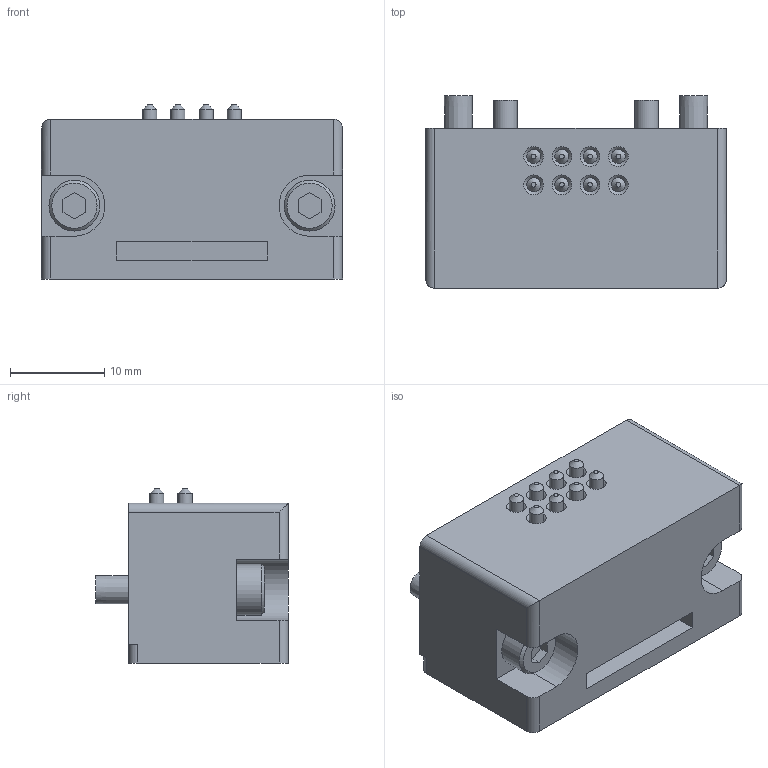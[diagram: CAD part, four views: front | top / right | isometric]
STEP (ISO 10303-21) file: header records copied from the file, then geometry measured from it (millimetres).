
FILE_DESCRIPTION(('STEP AP214'),'1');
FILE_NAME('KHF-12HS-D38_ver1.stp','2026-04-27T01:52:26',(' '),(' '),'Spatial InterOp 3D',' ',' ');
FILE_SCHEMA(('AUTOMOTIVE_DESIGN { 1 0 10303 214 1 1 1 1 }'));
Length unit declared in the file: millimetre
Products named in the file (1): KHF-12HS-D38_ver1
Bounding box: 32 x 20.5 x 18.5 mm (x, y, z)
Volume: 8453.3 mm3; surface area: 4235.6 mm2
Topology: 1 solids, 5 shells, 181 faces, 412 edges, 264 vertices
Faces by surface type: plane 117, cylinder 40, cone 24
Full cylindrical faces by diameter (mm): 1.5 x8, 2.15 x2, 2.5 x4, 3 x4, 3.5 x2, 5.41 x2
Entity records: 6260 total; most frequent: CARTESIAN_POINT 866, DIRECTION 822, ORIENTED_EDGE 716, EDGE_CURVE 358, AXIS2_PLACEMENT_3D 284, VERTEX_POINT 256, EDGE_LOOP 254, LINE 254
